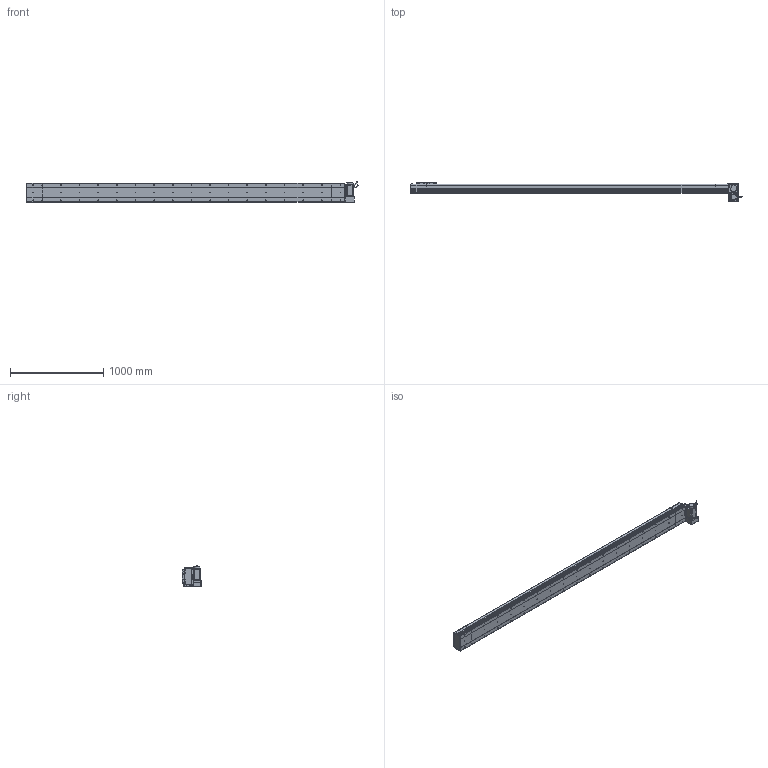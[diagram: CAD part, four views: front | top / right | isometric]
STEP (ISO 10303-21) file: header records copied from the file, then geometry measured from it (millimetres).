
FILE_DESCRIPTION (( 'STEP AP214' ), '1' );
FILE_NAME ('D20 CBH RU S3100.STEP', '2010-06-30T10:40:47', ( 'Conseil Régional Haute-Normandie' ), ( 'Conseil Régional Haute-Normandie' ), 'SwSTEP 2.0', 'SolidWorks 2010', '' );
FILE_SCHEMA (( 'AUTOMOTIVE_DESIGN' ));
Length unit declared in the file: millimetre
Products named in the file (31): Plaque De Serrage D20 RU_Default; codeur 90BLDC125-640; corps 90BLDC125A-640; Cache Support Moteur RU_Default; avant 90BLDC125A-640; Moteur motionking 90BLDC125A-640; Rondelle Cache D20 RU_Default; vis M5 L15_Default; Plaque De Serrage D20_Default; Plaque de Bout Tail D20_Default; Couvercle_Default; Corp Tail D20+100_Default; Corp D20 S3100_Default; Glissiere_Default; Chariot D20_Default; Tail D20+100_Default; Couvercle S3100_Default; Corp S3100_Default; vis M5 L47_Default; Support Chariot D20_Default; ecrou_Default; vis M5 L30_Default; Conecteur_Default; Conecteur2_Default; Plaque de Bout Head D20 RU_Default; Head RU_Default; D20 CBH RU S3100; Couvercle RU_Default; Corp Tail D20 RU_Default; Support moteur RU_Default
Assembly tree (66 placements, depth 4):
  D20 CBH RU S3100
    Chariot D20_Default
      vis M5 L15_Default  x8
      Glissiere_Default
      Chariot D20_Default
      Support Chariot D20_Default
    Tail D20+100_Default
      vis M5 L15_Default  x6
      Plaque de Bout Tail D20_Default
      Corp Tail D20+100_Default
      Couvercle_Default
      Plaque De Serrage D20_Default
    Head RU_Default
      vis M5 L30_Default  x4
      vis M5 L15_Default  x12
      ecrou_Default  x4
      vis M5 L47_Default  x4
      Couvercle RU_Default
      Support moteur RU_Default
      Moteur motionking 90BLDC125A-640
        avant 90BLDC125A-640
        corps 90BLDC125A-640
        Conecteur2_Default
        Conecteur_Default
        codeur 90BLDC125-640
      Corp Tail D20 RU_Default
      Plaque De Serrage D20 RU_Default
      Plaque de Bout Head D20 RU_Default
      Cache Support Moteur RU_Default
      Rondelle Cache D20 RU_Default  x3
    Corp D20 S3100_Default
      Corp S3100_Default
      Couvercle S3100_Default
Bounding box: 3564.45 x 209 x 229.7 mm (x, y, z)
Volume: 23872317.8 mm3; surface area: 4585470.8 mm2
Topology: 103 solids, 103 shells, 3826 faces, 9524 edges, 6190 vertices
Faces by surface type: plane 2117, bspline 806, cylinder 740, torus 91, cone 68, sphere 4
Entity records: 161014 total; most frequent: CARTESIAN_POINT 82578, ORIENTED_EDGE 15516, DIRECTION 11922, EDGE_CURVE 7758, VERTEX_POINT 5134, LINE 4990, VECTOR 4990, AXIS2_PLACEMENT_3D 3466
